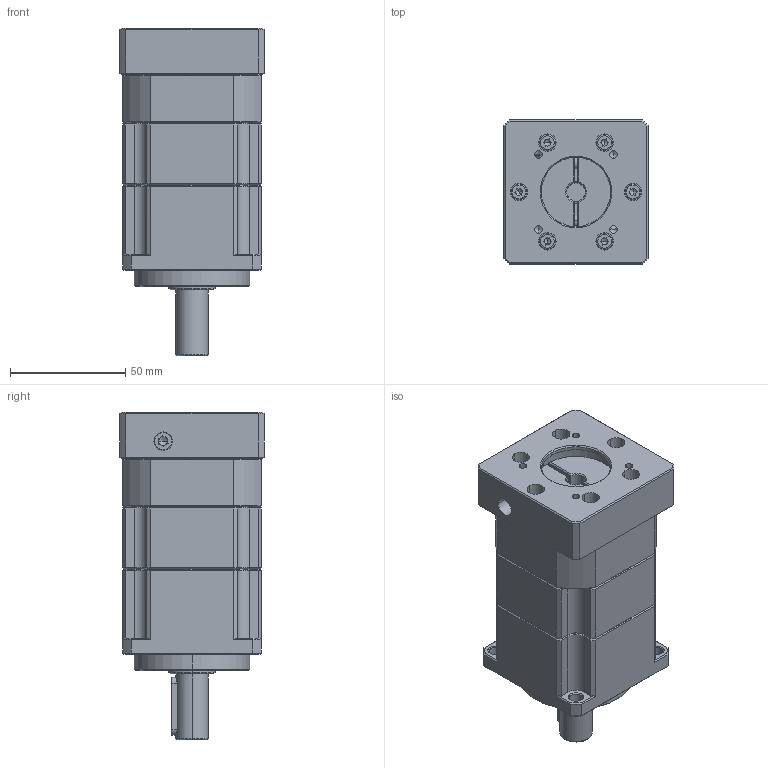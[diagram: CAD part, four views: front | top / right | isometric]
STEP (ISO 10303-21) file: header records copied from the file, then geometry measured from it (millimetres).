
FILE_DESCRIPTION (( 'STEP AP214' ), '1' );
FILE_NAME ('ZPB060-D14-L2-P1-8-30-46-M4.step', '2024-04-23T15:39:45', ( 'Windows 蚚誧' ), ( 'Organization' ), 'SwSTEP 2.0', 'SolidWorks 2016', '' );
FILE_SCHEMA (( 'AUTOMOTIVE_DESIGN' ));
Length unit declared in the file: millimetre
Products named in the file (1): ZPB060-D14-L2-P1-8-30-46-M4
Bounding box: 62.5 x 62.5 x 142 mm (x, y, z)
Volume: 334853.5 mm3; surface area: 82679.3 mm2
Topology: 17 solids, 25 shells, 2131 faces, 5914 edges, 3803 vertices
Faces by surface type: plane 1094, bspline 373, cylinder 319, cone 203, torus 96, sphere 46
Entity records: 110535 total; most frequent: CARTESIAN_POINT 36030, ORIENTED_EDGE 11488, DIRECTION 9049, EDGE_CURVE 5744, VERTEX_POINT 3734, VECTOR 3427, LINE 3427, AXIS2_PLACEMENT_3D 2811
